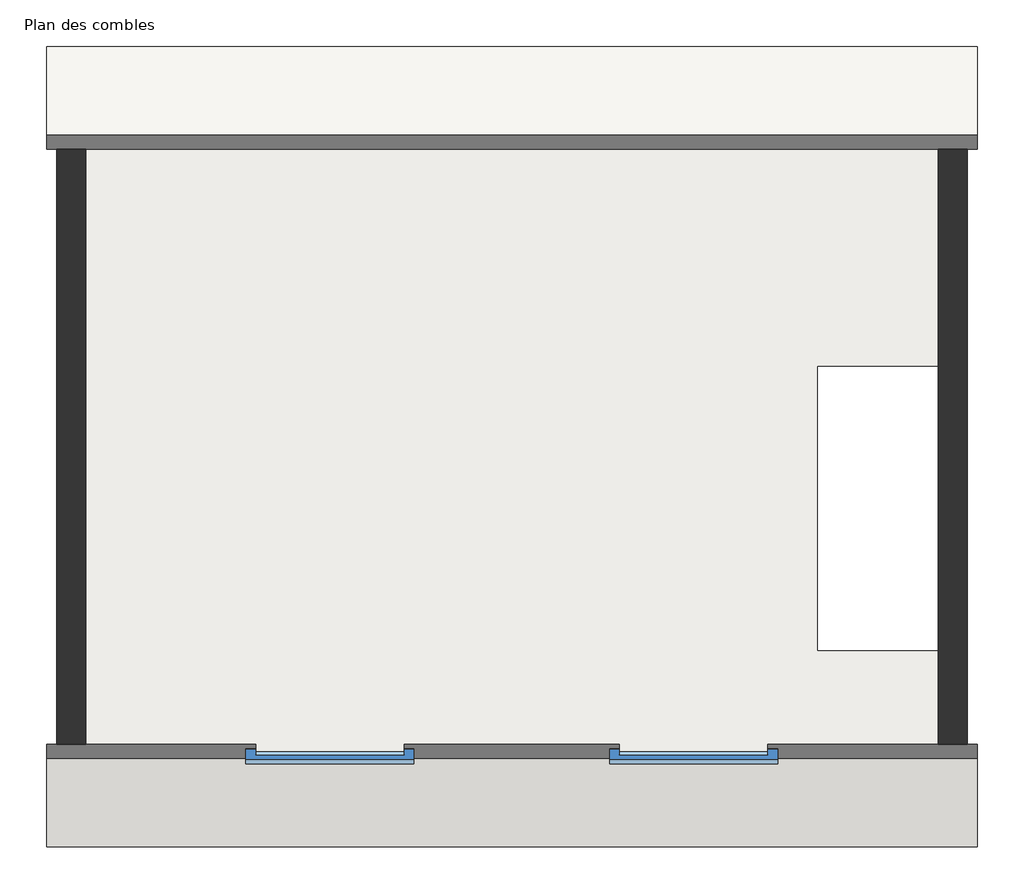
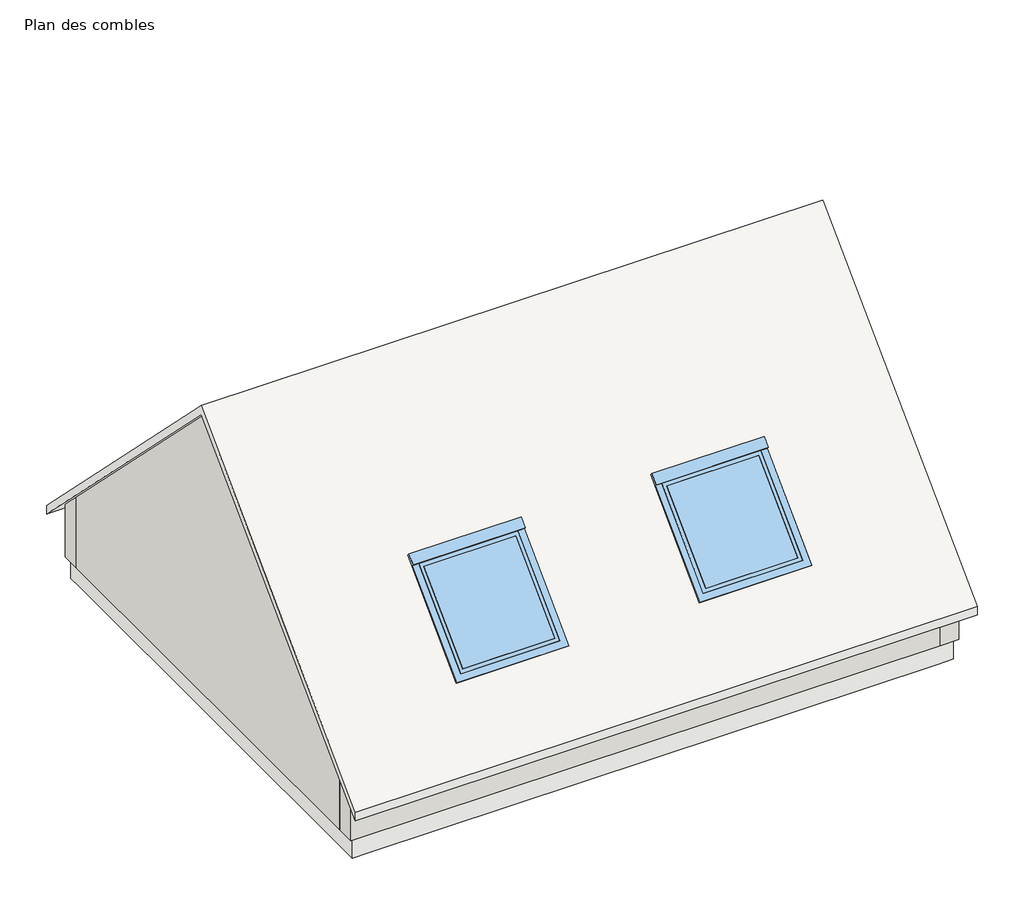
# One storey: 4 walls, 2 windows, 1 roof, 1 slab.
"""IFC4 building model written with IfcOpenShell, lengths in millimetres."""

from ifc_helpers import new_model, si_unit, frame, origin, place, context, project, spatial, polyline, outline, extrude, faceted_brep, transform, mapped, element, save
from components import velux_114_x_118_b14f580e

model = new_model("IFC4")

# Units and contexts
model_context = context("Model", 3, world=origin())
ifc_project = project(units=[si_unit("LENGTHUNIT", "METRE", prefix="MILLI")], contexts=[model_context])

# Site, building, storey
site = spatial("IfcSite", under=ifc_project)
building = spatial("IfcBuilding", under=site)
storey = spatial("IfcBuildingStorey", under=building, Name="Plan des combles", Elevation=2740.0)

# Roof
placement = place(None, origin())
element("IfcRoof", 1, ObjectType="Toit  couverture ardoise", at=placement, inside=storey, context=model_context, shape_type="Brep", body=[
    faceted_brep([(-3665.0276062, 25826.9326555, 6230.0), (-3665.0276062, 28906.9326555, 3150.0), (3494.9723938, 28906.9326555, 3150.0), (3494.9723938, 25826.9326555, 6230.0), (3494.9723938, 22746.9326555, 3150.0), (-3665.0276062, 22746.9326555, 3150.0), (-915.0276062, 23478.9471501, 3882.0144946), (-915.0276062, 24341.2170286, 4744.2843731), (-2055.0276062, 24341.2170286, 4744.2843731), (-2055.0276062, 23478.9471501, 3882.0144946), (1881.1723938, 23478.9471501, 3882.0144946), (1881.1723938, 24341.2170286, 4744.2843731), (741.1723938, 24341.2170286, 4744.2843731), (741.1723938, 23478.9471501, 3882.0144946), (-3665.0276062, 28906.9326555, 3256.0660172), (-3665.0276062, 25826.9326555, 6336.0660172), (3494.9723938, 25826.9326555, 6336.0660172), (3494.9723938, 28906.9326555, 3256.0660172), (-3665.0276062, 22746.9326555, 3256.0660172), (3494.9723938, 22746.9326555, 3256.0660172), (-838.8276062, 23389.7102743, 3898.8436359), (-2131.2276062, 23389.7102743, 3898.8436359), (-2131.2276062, 24362.8306265, 4871.9639882), (-838.8276062, 24362.8306265, 4871.9639882), (1957.3723938, 23389.7102743, 3898.8436359), (664.9723938, 23389.7102743, 3898.8436359), (664.9723938, 24362.8306265, 4871.9639882), (1957.3723938, 24362.8306265, 4871.9639882), (-915.0276062, 24313.3331519, 4751.7558354), (-915.0276062, 23478.9471501, 3917.3698336), (-2055.0276062, 24313.3331519, 4751.7558354), (-2055.0276062, 23478.9471501, 3917.3698336), (-2131.2276062, 23425.0656133, 3863.4882969), (-838.8276062, 23425.0656133, 3863.4882969), (-838.8276062, 24398.1859656, 4836.6086492), (-2131.2276062, 24398.1859656, 4836.6086492), (1881.1723938, 24313.3331519, 4751.7558354), (1881.1723938, 23478.9471501, 3917.3698336), (741.1723938, 24313.3331519, 4751.7558354), (741.1723938, 23478.9471501, 3917.3698336), (664.9723938, 23425.0656133, 3863.4882969), (1957.3723938, 23425.0656133, 3863.4882969), (1957.3723938, 24398.1859656, 4836.6086492), (664.9723938, 24398.1859656, 4836.6086492)], [[[0, 1, 2, 3]], [[4, 5, 0, 3], [6, 7, 8, 9], [10, 11, 12, 13]], [[14, 15, 16, 17]], [[18, 19, 16, 15], [20, 21, 22, 23], [24, 25, 26, 27]], [[4, 19, 18, 5]], [[1, 14, 17, 2]], [[18, 15, 14, 1, 0, 5]], [[17, 16, 19, 4, 3, 2]], [[28, 7, 6, 29]], [[8, 30, 31, 9]], [[7, 28, 30, 8]], [[29, 6, 9, 31]], [[32, 33, 34, 35], [28, 29, 31, 30]], [[33, 32, 21, 20]], [[34, 33, 20, 23]], [[35, 34, 23, 22]], [[32, 35, 22, 21]], [[36, 11, 10, 37]], [[12, 38, 39, 13]], [[11, 36, 38, 12]], [[37, 10, 13, 39]], [[40, 41, 42, 43], [36, 37, 39, 38]], [[41, 40, 25, 24]], [[42, 41, 24, 27]], [[43, 42, 27, 26]], [[40, 43, 26, 25]]]),
])

# Slab
element("IfcSlab", 2, ObjectType="Dalle Béton - 250 mm", at=placement, inside=storey, context=model_context, shape_type="Brep", body=[
    faceted_brep([(3374.9723938, 28636.9326555, 2490.0), (3374.9723938, 28456.9326555, 2490.0), (3374.9723938, 23016.9326555, 2490.0), (3194.9723938, 23016.9326555, 2490.0), (-3365.0276062, 23016.9326555, 2490.0), (-3545.0276062, 23016.9326555, 2490.0), (-3545.0276062, 28456.9326555, 2490.0), (-3545.0276062, 28636.9326555, 2490.0), (2264.9723938, 26445.2717089, 2490.0), (2264.9723938, 24260.3507212, 2490.0), (3194.9723938, 24260.3507212, 2490.0), (3194.9723938, 26445.2717089, 2490.0), (3374.9723938, 23016.9326555, 2740.0), (3374.9723938, 28456.9326555, 2740.0), (3374.9723938, 28636.9326555, 2740.0), (-3545.0276062, 28636.9326555, 2740.0), (-3545.0276062, 28456.9326555, 2740.0), (-3545.0276062, 23016.9326555, 2740.0), (-3365.0276062, 23016.9326555, 2740.0), (3194.9723938, 23016.9326555, 2740.0), (2264.9723938, 24260.3507212, 2740.0), (2264.9723938, 26445.2717089, 2740.0), (3194.9723938, 26445.2717089, 2740.0), (3194.9723938, 24260.3507212, 2740.0)], [[[0, 1, 2, 3, 4, 5, 6, 7], [8, 9, 10, 11]], [[12, 13, 14, 15, 16, 17, 18, 19], [20, 21, 22, 23]], [[2, 1, 0, 14, 13, 12]], [[5, 4, 3, 2, 12, 19, 18, 17]], [[7, 6, 5, 17, 16, 15]], [[0, 7, 15, 14]], [[20, 9, 8, 21]], [[21, 8, 11, 22]], [[22, 11, 10, 23]], [[9, 20, 23, 10]]]),
])

# Walls
element("IfcWall", 3, ObjectType="EXTERIEUR BBM 20 cm+  ENDUIT", at=placement, inside=storey, context=model_context, shape_type="Brep", body=[
    faceted_brep([(-3585.0276062, 28456.9326555, 2740.0), (-3365.0276062, 28456.9326555, 2740.0), (3194.9723938, 28456.9326555, 2740.0), (3414.9723938, 28456.9326555, 2740.0), (3414.9723938, 28456.9326555, 3600.0), (3194.9723938, 28456.9326555, 3600.0), (-3365.0276062, 28456.9326555, 3600.0), (-3585.0276062, 28456.9326555, 3600.0), (-3585.0276062, 28676.9326555, 2740.0), (-3585.0276062, 28676.9326555, 3380.0), (3414.9723938, 28676.9326555, 3380.0), (3414.9723938, 28676.9326555, 2740.0)], [[[0, 1, 2, 3, 4, 5, 6, 7]], [[8, 9, 10, 11]], [[3, 2, 1, 0, 8, 11]], [[4, 3, 11, 10]], [[0, 7, 9, 8]], [[7, 6, 5, 4, 10, 9]]]),
])
element("IfcWall", 4, ObjectType="EXTERIEUR BBM 20 cm+  ENDUIT", at=placement, inside=storey, context=model_context, shape_type="Brep", body=[
    faceted_brep([(3194.9723938, 28456.9326555, 2740.0), (3194.9723938, 23196.9326555, 2740.0), (3194.9723938, 22976.9326555, 2740.0), (3194.9723938, 22976.9326555, 3380.0), (3194.9723938, 23196.9326555, 3600.0), (3194.9723938, 25826.9326555, 6230.0), (3194.9723938, 28456.9326555, 3600.0), (3414.9723938, 28456.9326555, 2740.0), (3414.9723938, 28456.9326555, 3600.0), (3414.9723938, 25826.9326555, 6230.0), (3414.9723938, 22976.9326555, 3380.0), (3414.9723938, 22976.9326555, 2740.0)], [[[0, 1, 2, 3, 4, 5, 6]], [[7, 8, 9, 10, 11]], [[2, 1, 0, 7, 11]], [[3, 2, 11, 10]], [[0, 6, 8, 7]], [[6, 5, 9, 8]], [[5, 4, 3, 10, 9]]]),
])
element("IfcWall", 5, ObjectType="EXTERIEUR BBM 20 cm+  ENDUIT", at=placement, inside=storey, context=model_context, shape_type="Brep", body=[
    faceted_brep([(3194.9723938, 23196.9326555, 2740.0), (-3365.0276062, 23196.9326555, 2740.0), (-3585.0276062, 23196.9326555, 2740.0), (-3585.0276062, 23196.9326555, 3600.0), (-3365.0276062, 23196.9326555, 3600.0), (3194.9723938, 23196.9326555, 3600.0), (3194.9723938, 22976.9326555, 2740.0), (3194.9723938, 22976.9326555, 3380.0), (-3585.0276062, 22976.9326555, 3380.0), (-3585.0276062, 22976.9326555, 2740.0)], [[[0, 1, 2, 3, 4, 5]], [[6, 7, 8, 9]], [[2, 1, 0, 6, 9]], [[3, 2, 9, 8]], [[0, 5, 7, 6]], [[5, 4, 3, 8, 7]]]),
])
element("IfcWall", 6, ObjectType="EXTERIEUR BBM 20 cm+  ENDUIT", at=placement, inside=storey, context=model_context, shape_type="SweptSolid", body=[
    extrude(outline(polyline([(23196.9326555, 2740.0), (23196.9326555, 3600.0), (25826.9326555, 6230.0), (28456.9326555, 3600.0), (28456.9326555, 2740.0), (23196.9326555, 2740.0)])), frame((-3585.0276062, 0.0, 0.0), z_axis=(1.0, 0.0, 0.0), x_axis=(0.0, 1.0, 0.0)), (0.0, 0.0, 1.0), 220.0),
])

# Windows
velux_114_x_118_shape = velux_114_x_118_b14f580e(model_context)
element("IfcWindow", 7, ObjectType="FR_Fenetre de Toit : velux 114 x 118", at=placement, inside=storey, context=model_context, shape_type="MappedRepresentation", body=[
    mapped(velux_114_x_118_shape, transform((1311.1723938, 26500.1315834, 1730.5714021), x_axis=(0.0, 0.7071067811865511, 0.707106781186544), y_axis=(-1.0000000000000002, 0.0, 0.0), z_axis=(0.0, -0.707106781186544, 0.7071067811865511))),
])
element("IfcWindow", 8, ObjectType="FR_Fenetre de Toit : velux 114 x 118", at=placement, inside=storey, context=model_context, shape_type="MappedRepresentation", body=[
    mapped(velux_114_x_118_shape, transform((-1485.0276062, 26500.1315834, 1730.5714021), x_axis=(0.0, 0.7071067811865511, 0.707106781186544), y_axis=(-1.0000000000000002, 0.0, 0.0), z_axis=(0.0, -0.707106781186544, 0.7071067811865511))),
])

save(model, "model.ifc")
